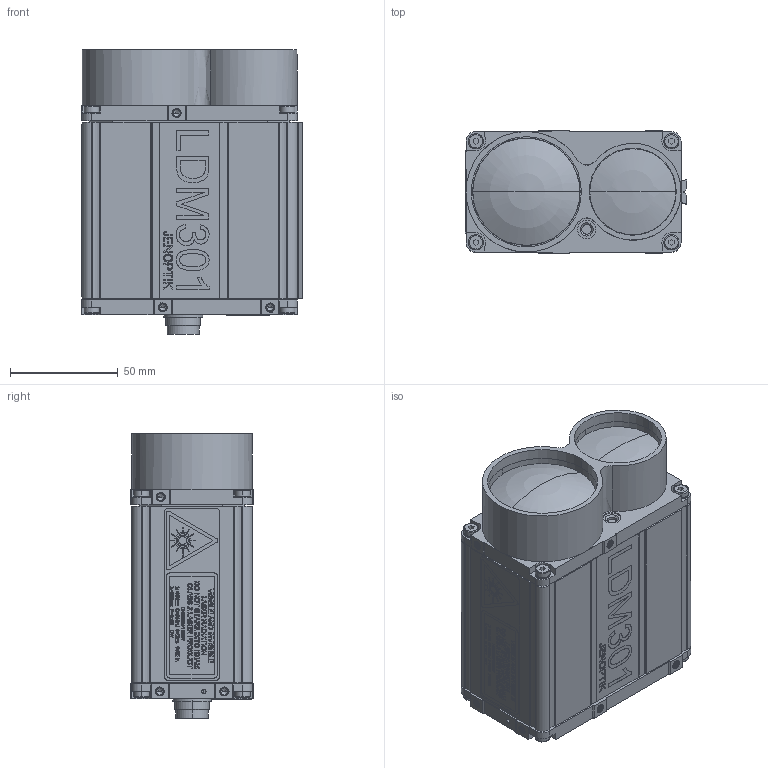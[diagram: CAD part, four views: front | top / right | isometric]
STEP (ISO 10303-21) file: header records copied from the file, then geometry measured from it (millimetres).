
FILE_DESCRIPTION((''),'2;1');
FILE_NAME('012861-002-26_STP-G001-C0','2013-02-18T',(''),(''),'PRO/ENGINEER BY PARAMETRIC TECHNOLOGY CORPORATION, 2011490','PRO/ENGINEER BY PARAMETRIC TECHNOLOGY CORPORATION, 2011490','');
FILE_SCHEMA(('AUTOMOTIVE_DESIGN_CC2 { 1 2 10303 214 -1 1 5 2 }'));
Products named in the file (1): 012861-002-26_STP-G001-C0
Bounding box: 103.21 x 57.01 x 132.4 mm (x, y, z)
Surface area: 149783.5 mm2 (no closed solid volume)
Topology: 0 solids, 308 shells, 1276 faces, 11843 edges, 10837 vertices
Faces by surface type: plane 638, cylinder 438, bspline 84, cone 77, sphere 21, torus 18
Entity records: 155380 total; most frequent: CARTESIAN_POINT 71085, ORIENTED_EDGE 14127, DIRECTION 12310, EDGE_CURVE 11762, VERTEX_POINT 10837, B_SPLINE_CURVE_WITH_KNOTS 4622, VECTOR 4354, LINE 4354
